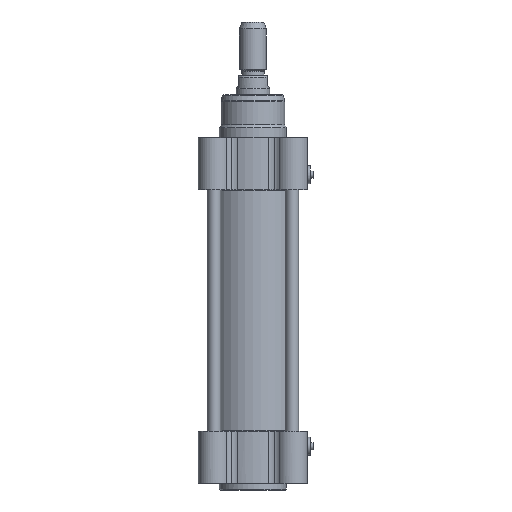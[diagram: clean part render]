
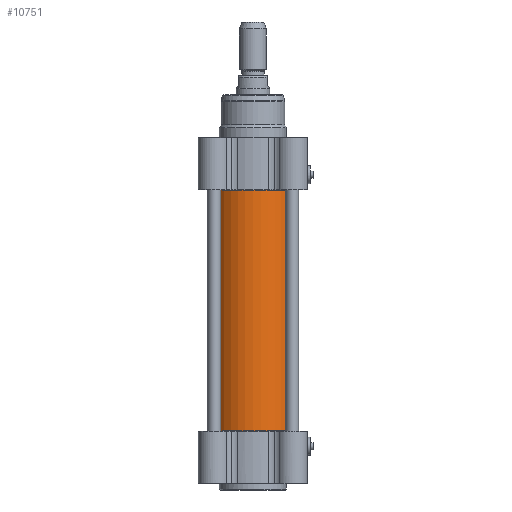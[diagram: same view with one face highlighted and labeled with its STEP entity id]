
A CAD part, front view. The second image highlights one B-rep face of the part: STEP entity #10751.
In plain terms, the highlighted cylindrical face has radius 26.5 mm (diameter 53 mm), a partial arc.
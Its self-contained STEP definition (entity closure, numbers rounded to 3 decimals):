
#263 = EDGE_CURVE ( 'NONE', #22549, #2019, #16498, .T. ) ;
#389 = EDGE_LOOP ( 'NONE', ( #15617, #7554, #7135, #12482 ) ) ;
#1142 = DIRECTION ( 'NONE',  ( 0., 0., 1. ) ) ;
#1964 = CARTESIAN_POINT ( 'NONE',  ( 26.5, 0., 0.2 ) ) ;
#2019 = VERTEX_POINT ( 'NONE', #19677 ) ;
#6664 = DIRECTION ( 'NONE',  ( 0., 0., 1. ) ) ;
#6868 = AXIS2_PLACEMENT_3D ( 'NONE', #19416, #8598, #10809 ) ;
#7135 = ORIENTED_EDGE ( 'NONE', *, *, #13106, .F. ) ;
#7206 = CARTESIAN_POINT ( 'NONE',  ( 26.5, 0., 143.8 ) ) ;
#7554 = ORIENTED_EDGE ( 'NONE', *, *, #14663, .T. ) ;
#8598 = DIRECTION ( 'NONE',  ( 0., 0., -1. ) ) ;
#8633 = DIRECTION ( 'NONE',  ( 0., 0., 1. ) ) ;
#10117 = CARTESIAN_POINT ( 'NONE',  ( -26.5, 0., 143.8 ) ) ;
#10751 = ADVANCED_FACE ( 'NONE', ( #18979 ), #12703, .T. ) ;
#10809 = DIRECTION ( 'NONE',  ( -1., 0., 0. ) ) ;
#10949 = VECTOR ( 'NONE', #1142, 1000. ) ;
#11727 = DIRECTION ( 'NONE',  ( 0., 0., 1. ) ) ;
#12482 = ORIENTED_EDGE ( 'NONE', *, *, #23905, .F. ) ;
#12703 = CYLINDRICAL_SURFACE ( 'NONE', #27083, 26.5 ) ;
#13106 = EDGE_CURVE ( 'NONE', #16853, #25450, #25776, .T. ) ;
#13771 = CARTESIAN_POINT ( 'NONE',  ( 0., 0., 143.8 ) ) ;
#14663 = EDGE_CURVE ( 'NONE', #22549, #25450, #23285, .T. ) ;
#14813 = AXIS2_PLACEMENT_3D ( 'NONE', #13771, #11727, #26099 ) ;
#15617 = ORIENTED_EDGE ( 'NONE', *, *, #263, .F. ) ;
#16498 = CIRCLE ( 'NONE', #6868, 26.5 ) ;
#16803 = DIRECTION ( 'NONE',  ( -1., 0., 0. ) ) ;
#16853 = VERTEX_POINT ( 'NONE', #10117 ) ;
#18979 = FACE_OUTER_BOUND ( 'NONE', #389, .T. ) ;
#19416 = CARTESIAN_POINT ( 'NONE',  ( 0., 0., 0.2 ) ) ;
#19677 = CARTESIAN_POINT ( 'NONE',  ( -26.5, 0., 0.2 ) ) ;
#21801 = VECTOR ( 'NONE', #8633, 1000. ) ;
#22549 = VERTEX_POINT ( 'NONE', #1964 ) ;
#23285 = LINE ( 'NONE', #25483, #21801 ) ;
#23905 = EDGE_CURVE ( 'NONE', #2019, #16853, #26358, .T. ) ;
#25157 = CARTESIAN_POINT ( 'NONE',  ( 0., 0., 0. ) ) ;
#25450 = VERTEX_POINT ( 'NONE', #7206 ) ;
#25483 = CARTESIAN_POINT ( 'NONE',  ( 26.5, 0., 0. ) ) ;
#25776 = CIRCLE ( 'NONE', #14813, 26.5 ) ;
#26099 = DIRECTION ( 'NONE',  ( -1., 0., 0. ) ) ;
#26358 = LINE ( 'NONE', #26481, #10949 ) ;
#26481 = CARTESIAN_POINT ( 'NONE',  ( -26.5, 0., 0. ) ) ;
#27083 = AXIS2_PLACEMENT_3D ( 'NONE', #25157, #6664, #16803 ) ;
